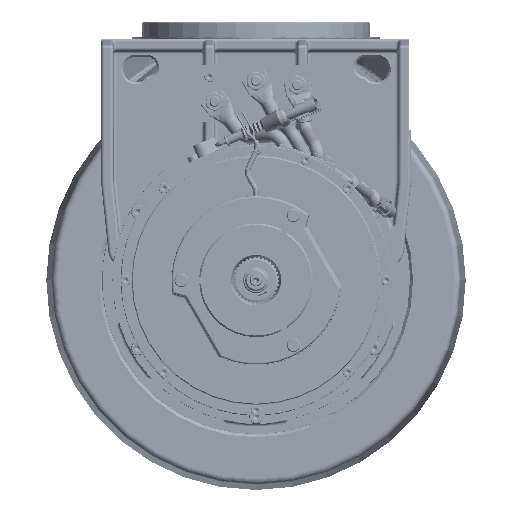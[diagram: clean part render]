
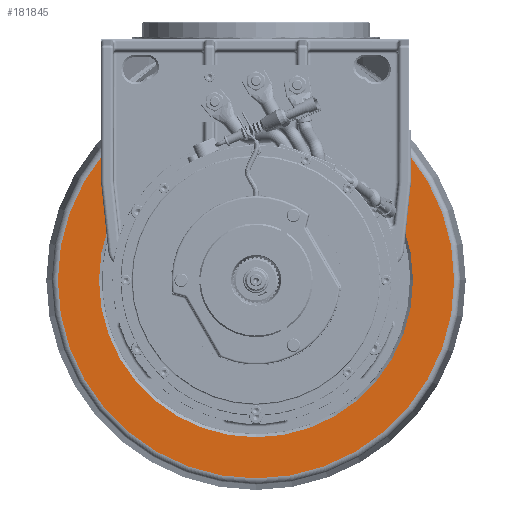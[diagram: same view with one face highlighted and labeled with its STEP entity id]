
A CAD part, front view. The second image highlights one B-rep face of the part: STEP entity #181845.
In plain terms, the highlighted planar face has unit normal (0, -1, 0).
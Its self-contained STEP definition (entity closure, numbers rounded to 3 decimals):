
#3059=FACE_BOUND('',#27199,.T.);
#7405=PLANE('',#196918);
#16492=FACE_OUTER_BOUND('',#27198,.T.);
#27198=EDGE_LOOP('',(#143969));
#27199=EDGE_LOOP('',(#143970));
#38414=CIRCLE('',#196332,191.815);
#38917=CIRCLE('',#196917,152.);
#81072=VERTEX_POINT('',#351453);
#82219=VERTEX_POINT('',#353920);
#102812=EDGE_CURVE('',#81072,#81072,#38414,.T.);
#104051=EDGE_CURVE('',#82219,#82219,#38917,.T.);
#143969=ORIENTED_EDGE('',*,*,#102812,.F.);
#143970=ORIENTED_EDGE('',*,*,#104051,.F.);
#181845=ADVANCED_FACE('',(#16492,#3059),#7405,.T.);
#196332=AXIS2_PLACEMENT_3D('',#351454,#231838,#231839);
#196917=AXIS2_PLACEMENT_3D('',#353922,#233744,#233745);
#196918=AXIS2_PLACEMENT_3D('',#353923,#233746,#233747);
#231838=DIRECTION('center_axis',(0.,1.,0.));
#231839=DIRECTION('ref_axis',(0.,0.,
1.));
#233744=DIRECTION('center_axis',(0.,-1.,0.));
#233745=DIRECTION('ref_axis',(0.,0.,
-1.));
#233746=DIRECTION('center_axis',(0.,-1.,0.));
#233747=DIRECTION('ref_axis',(0.,0.,
1.));
#351453=CARTESIAN_POINT('',(0.,-88.,191.815));
#351454=CARTESIAN_POINT('Origin',(0.,-88.,
0.));
#353920=CARTESIAN_POINT('',(0.,-88.,152.));
#353922=CARTESIAN_POINT('Origin',(0.,-88.,
0.));
#353923=CARTESIAN_POINT('Origin',(0.,-88.,
153.75));
